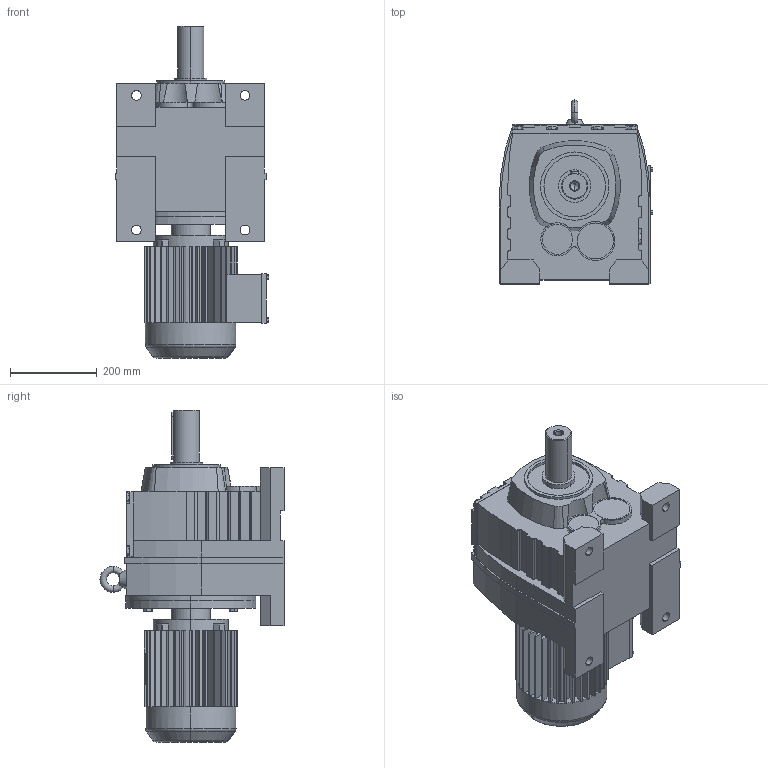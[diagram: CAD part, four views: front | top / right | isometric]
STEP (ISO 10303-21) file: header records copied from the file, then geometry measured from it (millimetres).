
FILE_DESCRIPTION(('Open CASCADE Model'),'2;1');
FILE_NAME('Open CASCADE Shape Model','2021-07-09T15:18:45',('Author'),( 'Open CASCADE'),'Open CASCADE STEP processor 6.3','Open CASCADE 6.3' ,'Unknown');
FILE_SCHEMA(('AUTOMOTIVE_DESIGN_CC2 { 1 2 10303 214 -1 1 5 4 }'));
Length unit declared in the file: millimetre
Products named in the file (3): 1_R97-Y100M; R37‵167_97.step; 萇儂_300_Y100M.step
Assembly tree (2 placements, depth 2):
  1_R97-Y100M
    R37‵167_97.step
    萇儂_300_Y100M.step
Bounding box: 354 x 424 x 765 mm (x, y, z)
Volume: 42219545.8 mm3; surface area: 1427084.8 mm2
Topology: 2 solids, 2 shells, 742 faces, 1985 edges, 1284 vertices
Faces by surface type: plane 525, cylinder 187, cone 20, torus 10
Entity records: 51881 total; most frequent: CARTESIAN_POINT 14047, DIRECTION 6594, ORIENTED_EDGE 3966, PCURVE 3966, DEFINITIONAL_REPRESENTATION 3966, LINE 3702, VECTOR 3702, EDGE_CURVE 1983
